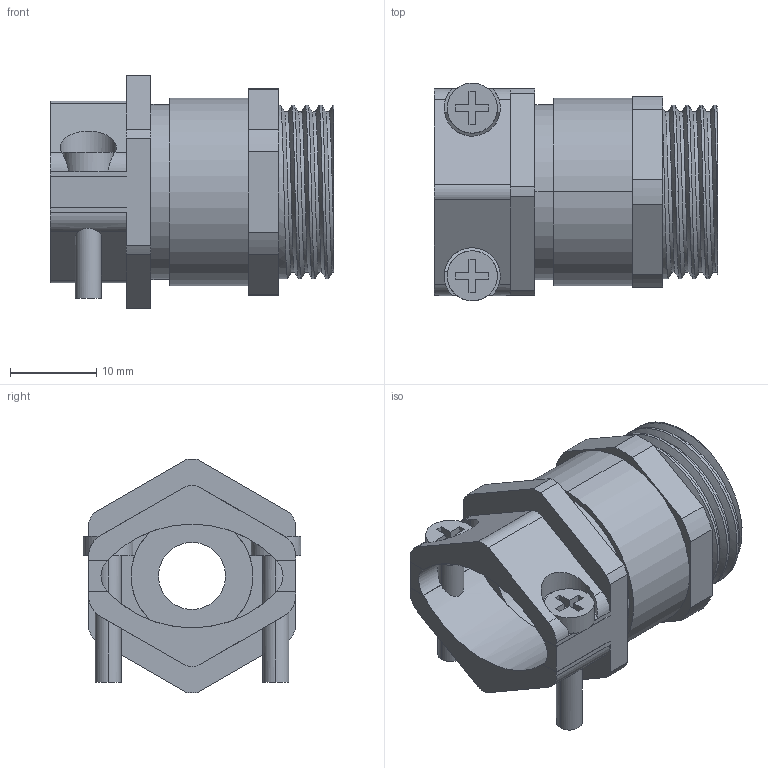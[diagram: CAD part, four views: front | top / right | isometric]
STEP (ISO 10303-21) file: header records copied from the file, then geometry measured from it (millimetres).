
FILE_DESCRIPTION (( 'STEP AP214' ), '1' );
FILE_NAME ('CRSS-13.5.STEP', '2006-08-01T14:43:58', ( 'Mencom User' ), ( 'Mencom Corporation' ), 'SwSTEP 2.0', 'SolidWorks 2006104', '' );
FILE_SCHEMA (( 'AUTOMOTIVE_DESIGN' ));
Length unit declared in the file: inch
Products named in the file (1): CRSS-13.5
Bounding box: 32.8 x 25.2 x 27 mm (x, y, z)
Volume: 6829.1 mm3; surface area: 5419.8 mm2
Topology: 1 solids, 1 shells, 152 faces, 444 edges, 292 vertices
Faces by surface type: plane 81, cylinder 67, bspline 4
Entity records: 6552 total; most frequent: CARTESIAN_POINT 2480, ORIENTED_EDGE 888, DIRECTION 799, EDGE_CURVE 444, VERTEX_POINT 292, AXIS2_PLACEMENT_3D 272, VECTOR 255, LINE 255
